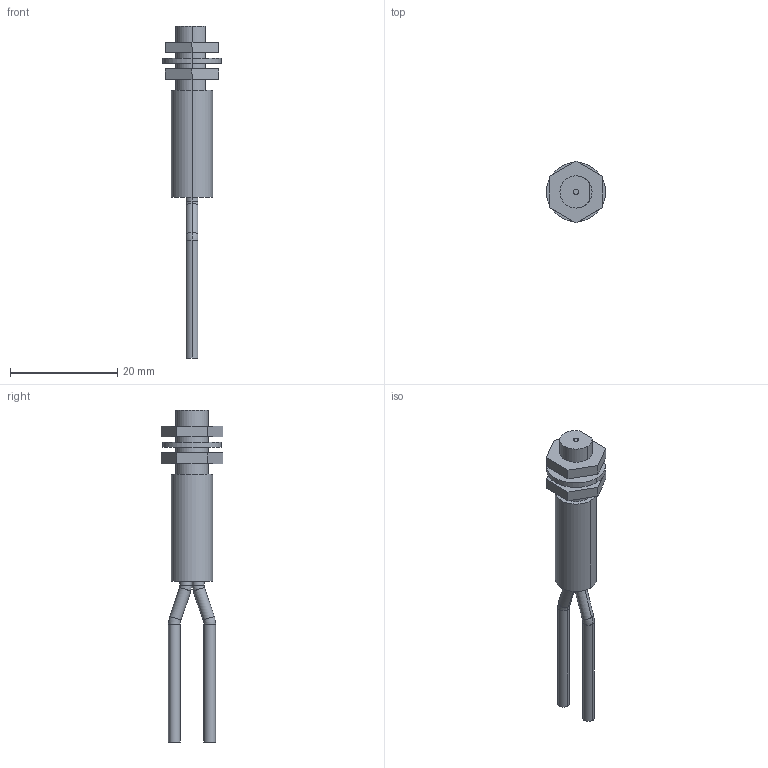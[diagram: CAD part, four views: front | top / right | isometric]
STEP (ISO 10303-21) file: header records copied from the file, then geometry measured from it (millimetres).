
FILE_DESCRIPTION (( 'STEP AP203' ), '1' );
FILE_NAME ('FD-P80.STEP', '2005-09-04T10:15:19', ( '川島良英' ), ( ' ' ), 'SwSTEP 2.0', 'SolidWorks 2004251', '' );
FILE_SCHEMA (( 'CONFIG_CONTROL_DESIGN' ));
Length unit declared in the file: millimetre
Products named in the file (1): FD-P80
Bounding box: 11 x 11.55 x 62 mm (x, y, z)
Volume: 1787.8 mm3; surface area: 1854.6 mm2
Topology: 4 solids, 4 shells, 60 faces, 128 edges, 80 vertices
Faces by surface type: cylinder 27, plane 25, torus 8
Entity records: 1709 total; most frequent: DIRECTION 312, CARTESIAN_POINT 269, ORIENTED_EDGE 256, EDGE_CURVE 128, AXIS2_PLACEMENT_3D 123, VERTEX_POINT 80, EDGE_LOOP 70, VECTOR 66
